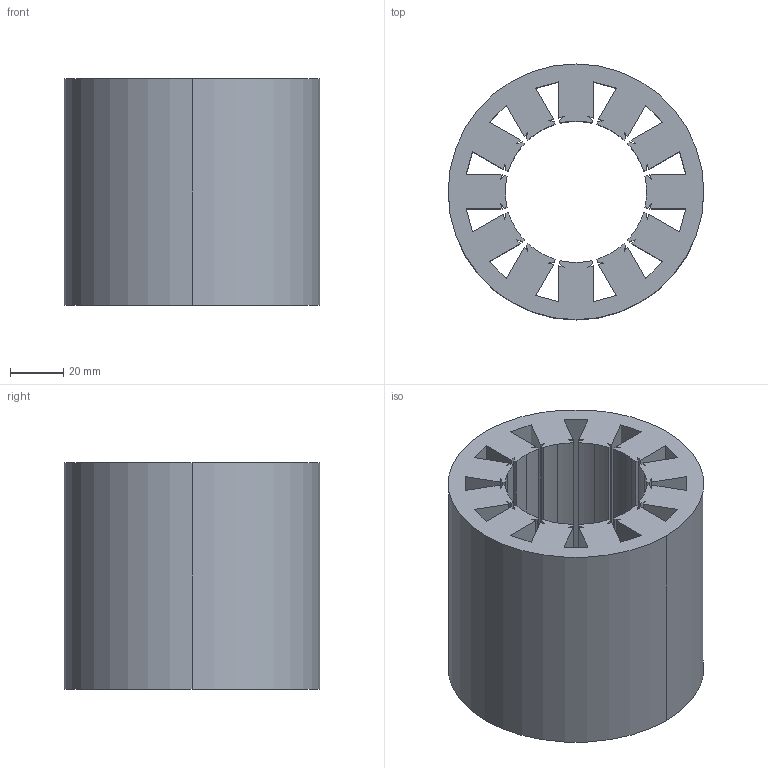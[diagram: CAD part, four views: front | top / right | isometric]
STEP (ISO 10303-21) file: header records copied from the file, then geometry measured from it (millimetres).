
FILE_DESCRIPTION(('FreeCAD Model'),'2;1');
FILE_NAME('Open CASCADE Shape Model','2026-11-06T09:52:55',('FreeCAD'),( 'FreeCAD'),'Open CASCADE STEP processor 7.8','FreeCAD','Unknown');
FILE_SCHEMA(('AUTOMOTIVE_DESIGN { 1 0 10303 214 1 1 1 1 }'));
Length unit declared in the file: millimetre
Products named in the file (1): Open CASCADE STEP translator 7.8 12
Bounding box: 96 x 96 x 85 mm (x, y, z)
Volume: 348699.6 mm3; surface area: 93278.4 mm2
Topology: 1 solids, 1 shells, 140 faces, 414 edges, 276 vertices
Faces by surface type: plane 110, cylinder 30
Entity records: 4652 total; most frequent: CARTESIAN_POINT 831, ORIENTED_EDGE 828, DIRECTION 756, EDGE_CURVE 414, LINE 354, VECTOR 354, VERTEX_POINT 276, AXIS2_PLACEMENT_3D 201
